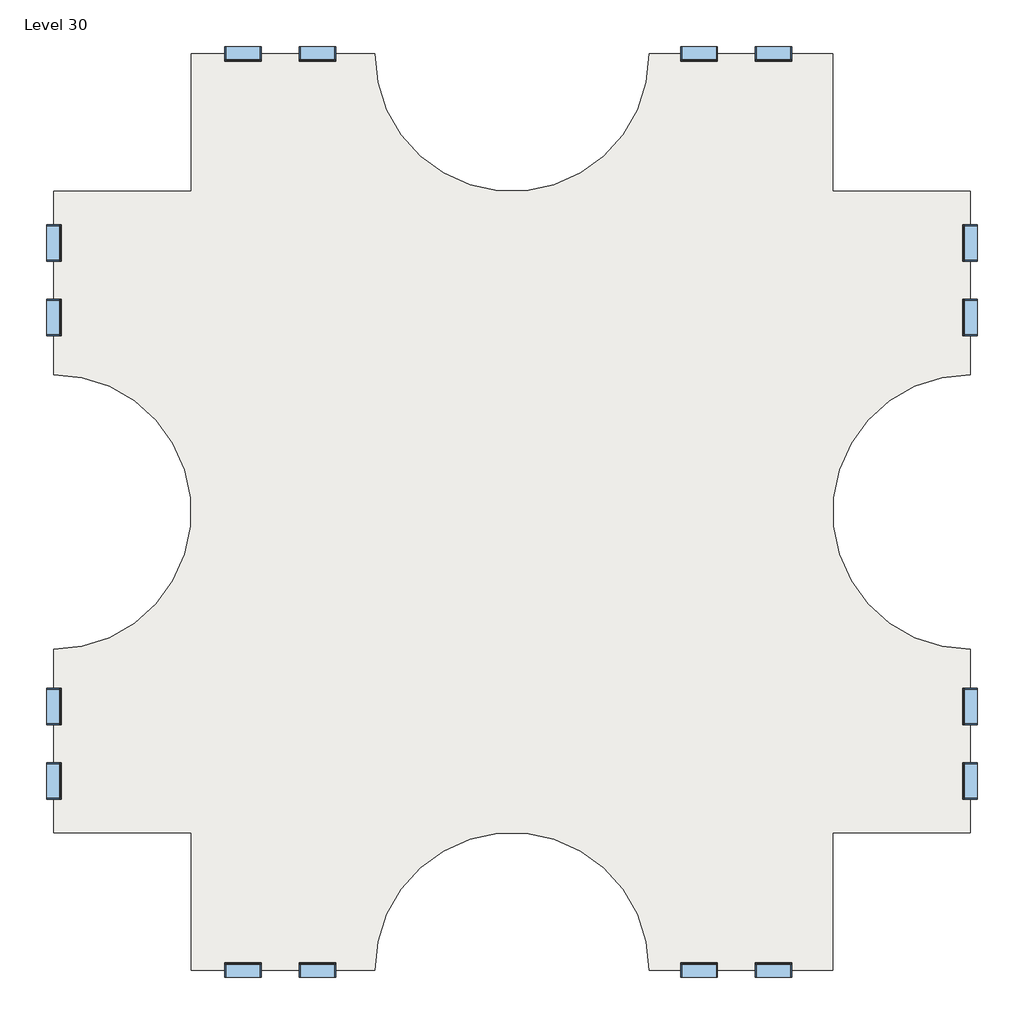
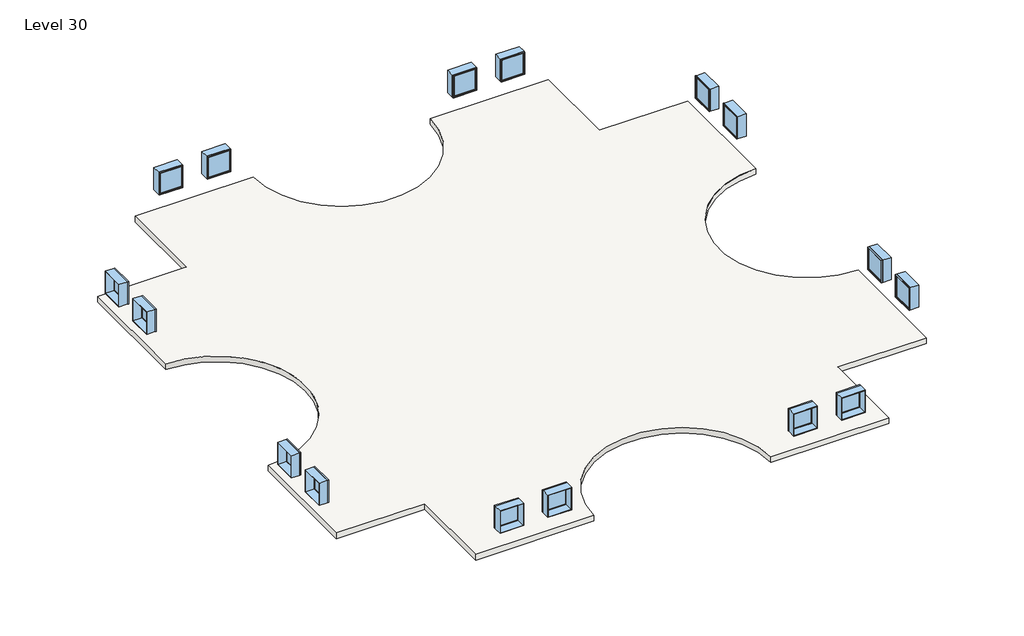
# One storey: 16 windows, 3 slabs.
"""IFC4 building model written with IfcOpenShell, lengths in millimetres."""

from ifc_helpers import new_model, si_unit, point, frame, frame_2d, origin, place, context, project, spatial, polyline, circle_curve, trimmed, segment, composite_curve, outline, extrude, transform, mapped, element, save
from components import window_d0035ecf, window_d434eb62

model = new_model("IFC4")

# Units and contexts
model_context = context("Model", 3, world=origin())
ifc_project = project(units=[si_unit("LENGTHUNIT", "METRE", prefix="MILLI")], contexts=[model_context])

# Site, building, storey
site = spatial("IfcSite", under=ifc_project)
building = spatial("IfcBuilding", under=site)
storey = spatial("IfcBuildingStorey", under=building, Name="Level 30", Elevation=88392.0)

# Slabs
placement = place(None, origin())
element("IfcSlab", 1, ObjectType="Generic - 12\"", at=placement, inside=storey, context=model_context, shape_type="SweptSolid", body=[
    extrude(outline(composite_curve([segment(polyline([(-7150.3629456, 4479.6634547), (-7150.3629456, 9051.6634547), (-1054.3629456, 9051.6634547)]), True, "CONTINUOUS"), segment(trimmed(circle_curve(frame_2d((3517.6370544, 9051.6634547)), 4572.0), [point((-1054.3629456, 9051.6634547))], [point((8089.6370544, 9051.6634547))], True, "CARTESIAN"), True, "CONTINUOUS"), segment(polyline([(8089.6370544, 9051.6634547), (14185.6370544, 9051.6634547), (14185.6370544, 4479.6634547), (18757.6370544, 4479.6634547), (18757.6370544, -1616.3365453)]), True, "CONTINUOUS"), segment(trimmed(circle_curve(frame_2d((18757.6370544, -6188.3365453)), 4572.0), [point((18757.6370544, -1616.3365453))], [point((18757.6370544, -10760.3365453))], True, "CARTESIAN"), True, "CONTINUOUS"), segment(polyline([(18757.6370544, -10760.3365453), (18757.6370544, -16856.3365453), (14185.6370544, -16856.3365453), (14185.6370544, -21428.3365453), (8089.6370544, -21428.3365453)]), True, "CONTINUOUS"), segment(trimmed(circle_curve(frame_2d((3517.6370544, -21428.3365453)), 4572.0), [point((8089.6370544, -21428.3365453))], [point((-1054.3629456, -21428.3365453))], True, "CARTESIAN"), True, "CONTINUOUS"), segment(polyline([(-1054.3629456, -21428.3365453), (-7150.3629456, -21428.3365453), (-7150.3629456, -16856.3365453), (-11722.3629456, -16856.3365453), (-11722.3629456, -10760.3365453)]), True, "CONTINUOUS"), segment(trimmed(circle_curve(frame_2d((-11722.3629456, -6188.3365453)), 4572.0), [point((-11722.3629456, -10760.3365453))], [point((-11722.3629456, -1616.3365453))], True, "CARTESIAN"), True, "CONTINUOUS"), segment(polyline([(-11722.3629456, -1616.3365453), (-11722.3629456, 4479.6634547), (-7150.3629456, 4479.6634547)]), True, "CONTINUOUS")], self_intersect=False)), frame((0.0, 0.0, 88087.2), z_axis=(0.0, 0.0, 1.0), x_axis=(1.0, 0.0, 0.0)), (0.0, 0.0, 1.0), 304.8),
])
element("IfcSlab", 2, ObjectType="Generic - 12\"", at=placement, inside=storey, context=model_context, shape_type="SweptSolid", body=[
    extrude(outline(composite_curve([segment(polyline([(-7150.3629456, 4479.6634547), (-7150.3629456, 9051.6634547), (-1054.3629456, 9051.6634547)]), True, "CONTINUOUS"), segment(trimmed(circle_curve(frame_2d((3517.6370544, 9051.6634547)), 4572.0), [point((-1054.3629456, 9051.6634547))], [point((8089.6370544, 9051.6634547))], True, "CARTESIAN"), True, "CONTINUOUS"), segment(polyline([(8089.6370544, 9051.6634547), (14185.6370544, 9051.6634547), (14185.6370544, 4479.6634547), (18757.6370544, 4479.6634547), (18757.6370544, -1616.3365453)]), True, "CONTINUOUS"), segment(trimmed(circle_curve(frame_2d((18757.6370544, -6188.3365453)), 4572.0), [point((18757.6370544, -1616.3365453))], [point((18757.6370544, -10760.3365453))], True, "CARTESIAN"), True, "CONTINUOUS"), segment(polyline([(18757.6370544, -10760.3365453), (18757.6370544, -16856.3365453), (14185.6370544, -16856.3365453), (14185.6370544, -21428.3365453), (8089.6370544, -21428.3365453)]), True, "CONTINUOUS"), segment(trimmed(circle_curve(frame_2d((3517.6370544, -21428.3365453)), 4572.0), [point((8089.6370544, -21428.3365453))], [point((-1054.3629456, -21428.3365453))], True, "CARTESIAN"), True, "CONTINUOUS"), segment(polyline([(-1054.3629456, -21428.3365453), (-7150.3629456, -21428.3365453), (-7150.3629456, -16856.3365453), (-11722.3629456, -16856.3365453), (-11722.3629456, -10760.3365453)]), True, "CONTINUOUS"), segment(trimmed(circle_curve(frame_2d((-11722.3629456, -6188.3365453)), 4572.0), [point((-11722.3629456, -10760.3365453))], [point((-11722.3629456, -1616.3365453))], True, "CARTESIAN"), True, "CONTINUOUS"), segment(polyline([(-11722.3629456, -1616.3365453), (-11722.3629456, 4479.6634547), (-7150.3629456, 4479.6634547)]), True, "CONTINUOUS")], self_intersect=False)), frame((0.0, 0.0, 88087.2), z_axis=(0.0, 0.0, 1.0), x_axis=(1.0, 0.0, 0.0)), (0.0, 0.0, 1.0), 304.8),
])
element("IfcSlab", 3, ObjectType="Generic - 12\"", at=placement, inside=storey, context=model_context, shape_type="SweptSolid", body=[
    extrude(outline(composite_curve([segment(polyline([(-7150.3629456, 4479.6634547), (-7150.3629456, 9051.6634547), (-1054.3629456, 9051.6634547)]), True, "CONTINUOUS"), segment(trimmed(circle_curve(frame_2d((3517.6370544, 9051.6634547)), 4572.0), [point((-1054.3629456, 9051.6634547))], [point((8089.6370544, 9051.6634547))], True, "CARTESIAN"), True, "CONTINUOUS"), segment(polyline([(8089.6370544, 9051.6634547), (14185.6370544, 9051.6634547), (14185.6370544, 4479.6634547), (18757.6370544, 4479.6634547), (18757.6370544, -1616.3365453)]), True, "CONTINUOUS"), segment(trimmed(circle_curve(frame_2d((18757.6370544, -6188.3365453)), 4572.0), [point((18757.6370544, -1616.3365453))], [point((18757.6370544, -10760.3365453))], True, "CARTESIAN"), True, "CONTINUOUS"), segment(polyline([(18757.6370544, -10760.3365453), (18757.6370544, -16856.3365453), (14185.6370544, -16856.3365453), (14185.6370544, -21428.3365453), (8089.6370544, -21428.3365453)]), True, "CONTINUOUS"), segment(trimmed(circle_curve(frame_2d((3517.6370544, -21428.3365453)), 4572.0), [point((8089.6370544, -21428.3365453))], [point((-1054.3629456, -21428.3365453))], True, "CARTESIAN"), True, "CONTINUOUS"), segment(polyline([(-1054.3629456, -21428.3365453), (-7150.3629456, -21428.3365453), (-7150.3629456, -16856.3365453), (-11722.3629456, -16856.3365453), (-11722.3629456, -10760.3365453)]), True, "CONTINUOUS"), segment(trimmed(circle_curve(frame_2d((-11722.3629456, -6188.3365453)), 4572.0), [point((-11722.3629456, -10760.3365453))], [point((-11722.3629456, -1616.3365453))], True, "CARTESIAN"), True, "CONTINUOUS"), segment(polyline([(-11722.3629456, -1616.3365453), (-11722.3629456, 4479.6634547), (-7150.3629456, 4479.6634547)]), True, "CONTINUOUS")], self_intersect=False)), frame((0.0, 0.0, 88087.2), z_axis=(0.0, 0.0, 1.0), x_axis=(1.0, 0.0, 0.0)), (0.0, 0.0, 1.0), 304.8),
])

# Windows
window_shape = window_d0035ecf(model_context)
element("IfcWindow", 4, ObjectType="Fixed : 48\" x 48\"", at=placement, inside=storey, context=model_context, shape_type="MappedRepresentation", body=[
    mapped(window_shape, transform((-11719.1879456, 247.3884547, 88392.0), x_axis=(0.0, -1.0, 0.0), y_axis=(1.0, 0.0, 0.0), z_axis=(0.0, 0.0, 1.0))),
])
element("IfcWindow", 5, ObjectType="Fixed : 48\" x 48\"", at=placement, inside=storey, context=model_context, shape_type="MappedRepresentation", body=[
    mapped(window_shape, transform((-5469.1993281, 9048.4884547, 88392.0), x_axis=(-1.0, 0.0, 0.0), y_axis=(0.0, -1.0, 0.0), z_axis=(0.0, 0.0, 1.0))),
])
element("IfcWindow", 6, ObjectType="Fixed : 48\" x 48\"", at=placement, inside=storey, context=model_context, shape_type="MappedRepresentation", body=[
    mapped(window_shape, transform((-11719.1879456, -15175.1729277, 88392.0), x_axis=(0.0, -1.0, 0.0), y_axis=(1.0, 0.0, 0.0), z_axis=(0.0, 0.0, 1.0))),
])
element("IfcWindow", 7, ObjectType="Fixed : 48\" x 48\"", at=placement, inside=storey, context=model_context, shape_type="MappedRepresentation", body=[
    mapped(window_shape, transform((-2918.0879456, -21425.1615453, 88392.0), x_axis=(1.0, 0.0, 0.0), y_axis=(0.0, 1.0, 0.0), z_axis=(0.0, 0.0, 1.0))),
])
element("IfcWindow", 8, ObjectType="Fixed : 48\" x 48\"", at=placement, inside=storey, context=model_context, shape_type="MappedRepresentation", body=[
    mapped(window_shape, transform((18754.4620544, 2798.4998372, 88392.0), x_axis=(0.0, 1.0, 0.0), y_axis=(-1.0, 0.0, 0.0), z_axis=(0.0, 0.0, 1.0))),
])
element("IfcWindow", 9, ObjectType="Fixed : 48\" x 48\"", at=placement, inside=storey, context=model_context, shape_type="MappedRepresentation", body=[
    mapped(window_shape, transform((9705.7120544, 9048.4884547, 88392.0), x_axis=(-1.0, 0.0, 0.0), y_axis=(0.0, -1.0, 0.0), z_axis=(0.0, 0.0, 1.0))),
])
element("IfcWindow", 10, ObjectType="Fixed : 48\" x 48\"", at=placement, inside=storey, context=model_context, shape_type="MappedRepresentation", body=[
    mapped(window_shape, transform((18754.4620544, -12624.0615453, 88392.0), x_axis=(0.0, 1.0, 0.0), y_axis=(-1.0, 0.0, 0.0), z_axis=(0.0, 0.0, 1.0))),
])
element("IfcWindow", 11, ObjectType="Fixed : 48\" x 48\"", at=placement, inside=storey, context=model_context, shape_type="MappedRepresentation", body=[
    mapped(window_shape, transform((12256.8234368, -21425.1615453, 88392.0), x_axis=(1.0, 0.0, 0.0), y_axis=(0.0, 1.0, 0.0), z_axis=(0.0, 0.0, 1.0))),
])
window_2_shape = window_d434eb62(model_context)
element("IfcWindow", 12, ObjectType="Fixed : 48\" x 48\"", at=placement, inside=storey, context=model_context, shape_type="MappedRepresentation", body=[
    mapped(window_2_shape, transform((-11719.1879456, 2798.4998372, 88392.0), x_axis=(0.0, 1.0, 0.0), y_axis=(-1.0, 0.0, 0.0), z_axis=(0.0, 0.0, 1.0))),
])
element("IfcWindow", 13, ObjectType="Fixed : 48\" x 48\"", at=placement, inside=storey, context=model_context, shape_type="MappedRepresentation", body=[
    mapped(window_2_shape, transform((-2918.0879456, 9048.4884547, 88392.0), x_axis=(1.0, 0.0, 0.0), y_axis=(0.0, 1.0, 0.0), z_axis=(0.0, 0.0, 1.0))),
])
element("IfcWindow", 14, ObjectType="Fixed : 48\" x 48\"", at=placement, inside=storey, context=model_context, shape_type="MappedRepresentation", body=[
    mapped(window_2_shape, transform((-11719.1879456, -12624.0615453, 88392.0), x_axis=(0.0, 1.0, 0.0), y_axis=(-1.0, 0.0, 0.0), z_axis=(0.0, 0.0, 1.0))),
])
element("IfcWindow", 15, ObjectType="Fixed : 48\" x 48\"", at=placement, inside=storey, context=model_context, shape_type="MappedRepresentation", body=[
    mapped(window_2_shape, transform((-5469.1993281, -21425.1615453, 88392.0), x_axis=(-1.0, 0.0, 0.0), y_axis=(0.0, -1.0, 0.0), z_axis=(0.0, 0.0, 1.0))),
])
element("IfcWindow", 16, ObjectType="Fixed : 48\" x 48\"", at=placement, inside=storey, context=model_context, shape_type="MappedRepresentation", body=[
    mapped(window_2_shape, transform((18754.4620544, 247.3884547, 88392.0), x_axis=(0.0, -1.0, 0.0), y_axis=(1.0, 0.0, 0.0), z_axis=(0.0, 0.0, 1.0))),
])
element("IfcWindow", 17, ObjectType="Fixed : 48\" x 48\"", at=placement, inside=storey, context=model_context, shape_type="MappedRepresentation", body=[
    mapped(window_2_shape, transform((12256.8234368, 9048.4884547, 88392.0), x_axis=(1.0, 0.0, 0.0), y_axis=(0.0, 1.0, 0.0), z_axis=(0.0, 0.0, 1.0))),
])
element("IfcWindow", 18, ObjectType="Fixed : 48\" x 48\"", at=placement, inside=storey, context=model_context, shape_type="MappedRepresentation", body=[
    mapped(window_2_shape, transform((18754.4620544, -15175.1729277, 88392.0), x_axis=(0.0, -1.0, 0.0), y_axis=(1.0, 0.0, 0.0), z_axis=(0.0, 0.0, 1.0))),
])
element("IfcWindow", 19, ObjectType="Fixed : 48\" x 48\"", at=placement, inside=storey, context=model_context, shape_type="MappedRepresentation", body=[
    mapped(window_2_shape, transform((9705.7120544, -21425.1615453, 88392.0), x_axis=(-1.0, 0.0, 0.0), y_axis=(0.0, -1.0, 0.0), z_axis=(0.0, 0.0, 1.0))),
])

save(model, "model.ifc")
